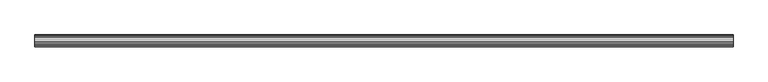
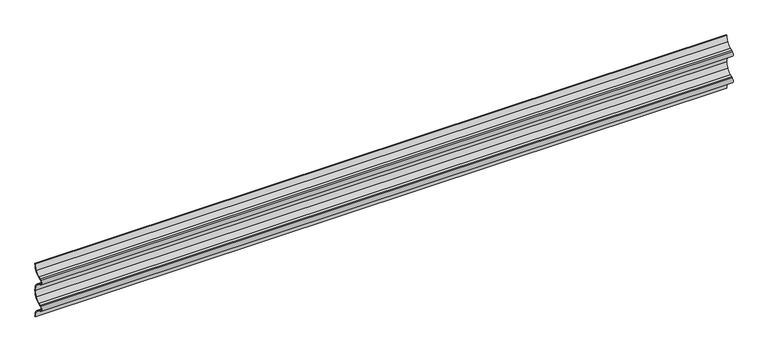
"""IFC4 building model written with IfcOpenShell, lengths in millimetres: plate geometry, Regolare Horizontal 178 : Regolare Horizontal 178."""

from ifc_helpers import new_model, si_unit, point, frame, frame_2d, origin, place, context, project, spatial, polyline, circle_curve, trimmed, segment, composite_curve, outline, extrude, source, transform, mapped, element, save


def plate_14376bf1(model_context):
    return source(origin(), model_context, "Body", "SweptSolid", [
        extrude(outline(composite_curve([segment(trimmed(circle_curve(frame_2d((-38.4503244, 178.1029782)), 37.4503244), [point((-6.5021495, 158.562228))], [point((-1.0, 178.1029782))], True, "CARTESIAN"), True, "CONTINUOUS"), segment(polyline([(-1.0, 178.1029782), (0.0, 178.1029782)]), True, "CONTINUOUS"), segment(trimmed(circle_curve(frame_2d((-38.4503244, 178.1029782)), 38.4503244), [point((0.0, 178.1029782))], [point((-5.6490681, 158.0404502))], False, "CARTESIAN"), True, "CONTINUOUS"), segment(trimmed(circle_curve(frame_2d((-32.6206681, 174.5373329)), 31.6166783), [point((-5.6490681, 158.0404502))], [point((-20.878867, 145.1818487))], False, "CARTESIAN"), True, "CONTINUOUS"), segment(polyline([(-20.878867, 145.1818487), (-28.0423924, 142.312627), (-31.4771017, 140.6662733)]), True, "CONTINUOUS"), segment(trimmed(circle_curve(frame_2d((-28.0791236, 133.5772336)), 7.8613445), [point((-31.4771017, 140.6662733))], [point((-31.4771017, 126.488194))], True, "CARTESIAN"), True, "CONTINUOUS"), segment(polyline([(-31.4771017, 126.488194), (-28.0423924, 124.8418403), (-20.878867, 121.9726185)]), True, "CONTINUOUS"), segment(trimmed(circle_curve(frame_2d((-32.6206681, 92.6171343)), 31.6166783), [point((-20.878867, 121.9726185))], [point((-5.6490681, 109.1140171))], False, "CARTESIAN"), True, "CONTINUOUS"), segment(trimmed(circle_curve(frame_2d((-38.4503244, 89.0514891)), 38.4503244), [point((-5.6490681, 109.1140171))], [point((0.0, 89.0514891))], False, "CARTESIAN"), True, "CONTINUOUS"), segment(trimmed(circle_curve(frame_2d((-38.4503244, 89.0514891)), 38.4503244), [point((0.0, 89.0514891))], [point((-5.6490681, 68.9889611))], False, "CARTESIAN"), True, "CONTINUOUS"), segment(trimmed(circle_curve(frame_2d((-32.6206681, 85.4858438)), 31.6166783), [point((-5.6490681, 68.9889611))], [point((-20.878867, 56.1303596))], False, "CARTESIAN"), True, "CONTINUOUS"), segment(polyline([(-20.878867, 56.1303596), (-28.0423924, 53.2611379), (-31.4771017, 51.6147842)]), True, "CONTINUOUS"), segment(trimmed(circle_curve(frame_2d((-28.0791236, 44.5257445)), 7.8613445), [point((-31.4771017, 51.6147842))], [point((-31.4771017, 37.4367049))], True, "CARTESIAN"), True, "CONTINUOUS"), segment(polyline([(-31.4771017, 37.4367049), (-28.0423924, 35.7903512), (-20.878867, 32.9211295)]), True, "CONTINUOUS"), segment(trimmed(circle_curve(frame_2d((-32.6206681, 3.5656452)), 31.6166783), [point((-20.878867, 32.9211295))], [point((-5.6490681, 20.062528))], False, "CARTESIAN"), True, "CONTINUOUS"), segment(trimmed(circle_curve(frame_2d((-38.4503244, 0.0)), 38.4503244), [point((-5.6490681, 20.062528))], [point((0.0, 0.0))], False, "CARTESIAN"), True, "CONTINUOUS"), segment(polyline([(0.0, 0.0), (-1.0, 0.0)]), True, "CONTINUOUS"), segment(trimmed(circle_curve(frame_2d((-38.4503244, 0.0)), 37.4503244), [point((-1.0, 0.0))], [point((-6.5021495, 19.5407501))], True, "CARTESIAN"), True, "CONTINUOUS"), segment(trimmed(circle_curve(frame_2d((-32.6206681, 3.5656452)), 30.6166783), [point((-6.5021495, 19.5407501))], [point((-21.2504634, 31.9927351))], True, "CARTESIAN"), True, "CONTINUOUS"), segment(polyline([(-21.2504634, 31.9927351), (-28.4448583, 34.874321), (-31.9093405, 36.5349457)]), True, "CONTINUOUS"), segment(trimmed(circle_curve(frame_2d((-28.0791236, 44.5257445)), 8.8613445), [point((-31.9093405, 36.5349457))], [point((-31.9093405, 52.5165434))], False, "CARTESIAN"), True, "CONTINUOUS"), segment(polyline([(-31.9093405, 52.5165434), (-28.4448583, 54.1771681), (-21.2504634, 57.058754)]), True, "CONTINUOUS"), segment(trimmed(circle_curve(frame_2d((-32.6206681, 85.4858438)), 30.6166783), [point((-21.2504634, 57.058754))], [point((-6.5021495, 69.5107389))], True, "CARTESIAN"), True, "CONTINUOUS"), segment(trimmed(circle_curve(frame_2d((-38.4503244, 89.0514891)), 37.4503244), [point((-6.5021495, 69.5107389))], [point((-1.0, 89.0514891))], True, "CARTESIAN"), True, "CONTINUOUS"), segment(trimmed(circle_curve(frame_2d((-38.4503244, 89.0514891)), 37.4503244), [point((-1.0, 89.0514891))], [point((-6.5021495, 108.5922392))], True, "CARTESIAN"), True, "CONTINUOUS"), segment(trimmed(circle_curve(frame_2d((-32.6206681, 92.6171343)), 30.6166783), [point((-6.5021495, 108.5922392))], [point((-21.2504634, 121.0442242))], True, "CARTESIAN"), True, "CONTINUOUS"), segment(polyline([(-21.2504634, 121.0442242), (-28.4448583, 123.9258101), (-31.9093405, 125.5864348)]), True, "CONTINUOUS"), segment(trimmed(circle_curve(frame_2d((-28.0791236, 133.5772336)), 8.8613445), [point((-31.9093405, 125.5864348))], [point((-31.9093405, 141.5680324))], False, "CARTESIAN"), True, "CONTINUOUS"), segment(polyline([(-31.9093405, 141.5680324), (-28.4448583, 143.2286572), (-21.2504634, 146.1102431)]), True, "CONTINUOUS"), segment(trimmed(circle_curve(frame_2d((-32.6206681, 174.5373329)), 30.6166783), [point((-21.2504634, 146.1102431))], [point((-6.5021495, 158.562228))], True, "CARTESIAN"), True, "CONTINUOUS")], self_intersect=False)), frame((-1100.0, 0.0, 0.0), z_axis=(1.0, 0.0, 0.0), x_axis=(0.0, 1.0, 0.0)), (0.0, 0.0, 1.0), 2200.0),
    ])


if __name__ == "__main__":
    model = new_model("IFC4")
    model_context = context("Model", 3, world=origin())
    ifc_project = project(units=[si_unit("LENGTHUNIT", "METRE", prefix="MILLI")], contexts=[model_context])
    site = spatial("IfcSite", under=ifc_project)
    building = spatial("IfcBuilding", under=site)
    placement = place(None, origin())
    plate_shape = plate_14376bf1(model_context)
    element("IfcPlate", 1, ObjectType="Regolare Horizontal 178 : Regolare Horizontal 178", at=placement, inside=building, context=model_context, shape_type="MappedRepresentation", body=[
        mapped(plate_shape, transform((0.0, 0.0, 0.0), x_axis=(1.0, 0.0, 0.0), y_axis=(0.0, 1.0, 0.0), z_axis=(0.0, 0.0, 1.0))),
    ])
    save(model, "model.ifc")
